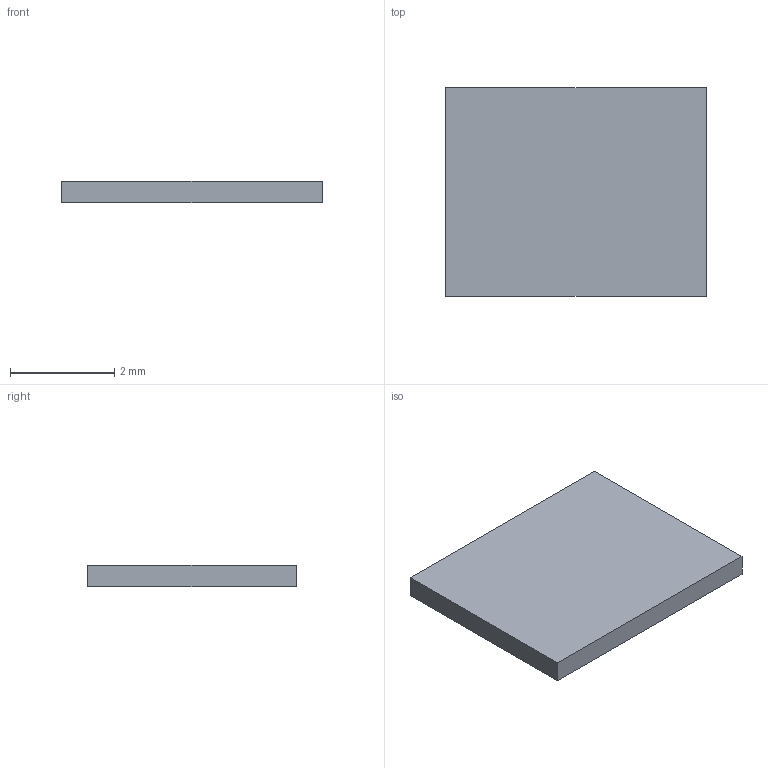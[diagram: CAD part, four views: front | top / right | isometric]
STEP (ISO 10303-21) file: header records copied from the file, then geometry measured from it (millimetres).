
FILE_DESCRIPTION(('Open CASCADE Model'),'2;1');
FILE_NAME('R36_STOCK_ANTENNA_END_PAD_2_INSTALLED_0p42', '2026-09-15T13:10:23',('Author'),('Open CASCADE'), 'Open CASCADE STEP processor 7.9','build123d','Unknown');
FILE_SCHEMA(('AUTOMOTIVE_DESIGN { 1 0 10303 214 1 1 1 1 }'));
Length unit declared in the file: millimetre
Products named in the file (1): R36_STOCK_ANTENNA_END_PAD_2_INSTALLED_0p42
Bounding box: 5 x 4 x 0.42 mm (x, y, z)
Volume: 8.4 mm3; surface area: 47.6 mm2
Topology: 1 solids, 1 shells, 6 faces, 12 edges, 8 vertices
Faces by surface type: plane 6
Entity records: 322 total; most frequent: CARTESIAN_POINT 51, DIRECTION 50, LINE 36, VECTOR 36, ORIENTED_EDGE 24, PCURVE 24, DEFINITIONAL_REPRESENTATION 24, EDGE_CURVE 12
